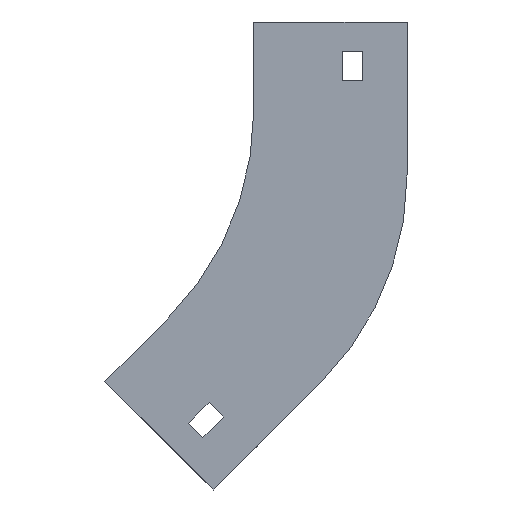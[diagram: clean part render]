
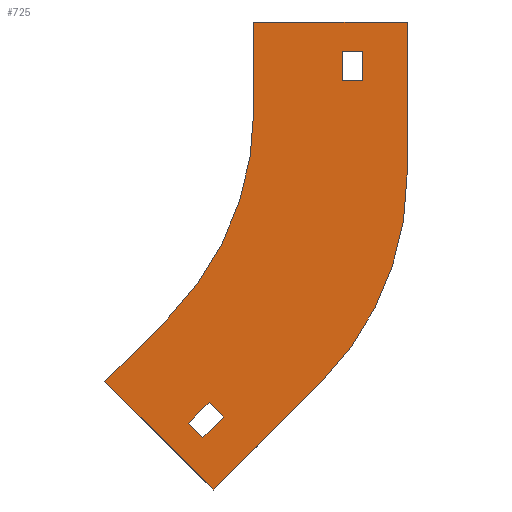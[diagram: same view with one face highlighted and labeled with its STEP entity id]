
A CAD part, left-side view. The second image highlights one B-rep face of the part: STEP entity #725.
In plain terms, the highlighted planar face has unit normal (-1, 0, 0).
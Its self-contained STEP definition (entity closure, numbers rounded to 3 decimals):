
#5 = FACE_BOUND ( 'NONE', #461, .T. ) ;
#8 = VERTEX_POINT ( 'NONE', #197 ) ;
#11 = VERTEX_POINT ( 'NONE', #332 ) ;
#12 = CARTESIAN_POINT ( 'NONE',  ( -302., 100., -30. ) ) ;
#15 = ORIENTED_EDGE ( 'NONE', *, *, #379, .T. ) ;
#26 = DIRECTION ( 'NONE',  ( 0., 0., -1. ) ) ;
#31 = CARTESIAN_POINT ( 'NONE',  ( -302., 50.503, -121.924 ) ) ;
#35 = CARTESIAN_POINT ( 'NONE',  ( -302., 50.503, -121.924 ) ) ;
#47 = ORIENTED_EDGE ( 'NONE', *, *, #1085, .F. ) ;
#66 = CARTESIAN_POINT ( 'NONE',  ( -302., 15.147, -128.995 ) ) ;
#85 = LINE ( 'NONE', #629, #989 ) ;
#96 = VERTEX_POINT ( 'NONE', #1117 ) ;
#100 = DIRECTION ( 'NONE',  ( 0., -0.707, -0.707 ) ) ;
#101 = ORIENTED_EDGE ( 'NONE', *, *, #447, .F. ) ;
#111 = DIRECTION ( 'NONE',  ( 0., -0.707, 0.707 ) ) ;
#118 = FACE_BOUND ( 'NONE', #548, .T. ) ;
#126 = VECTOR ( 'NONE', #1361, 1000. ) ;
#138 = VECTOR ( 'NONE', #526, 1000. ) ;
#158 = VECTOR ( 'NONE', #605, 1000. ) ;
#197 = CARTESIAN_POINT ( 'NONE',  ( -302., -52., 0. ) ) ;
#199 = DIRECTION ( 'NONE',  ( 0., -0.707, 0.707 ) ) ;
#204 = VERTEX_POINT ( 'NONE', #527 ) ;
#212 = CARTESIAN_POINT ( 'NONE',  ( -302., -37., -10. ) ) ;
#218 = CARTESIAN_POINT ( 'NONE',  ( -302., 29.289, -100.711 ) ) ;
#229 = VERTEX_POINT ( 'NONE', #212 ) ;
#266 = DIRECTION ( 'NONE',  ( 0., 0.707, 0.707 ) ) ;
#272 = VECTOR ( 'NONE', #199, 1000. ) ;
#277 = DIRECTION ( 'NONE',  ( 0., -1., 0. ) ) ;
#286 = CARTESIAN_POINT ( 'NONE',  ( -302., -30., -10. ) ) ;
#320 = CARTESIAN_POINT ( 'NONE',  ( -302., -30., -10. ) ) ;
#331 = ORIENTED_EDGE ( 'NONE', *, *, #776, .T. ) ;
#332 = CARTESIAN_POINT ( 'NONE',  ( -302., 0., -30. ) ) ;
#333 = AXIS2_PLACEMENT_3D ( 'NONE', #427, #837, #857 ) ;
#354 = VERTEX_POINT ( 'NONE', #1260 ) ;
#358 = VECTOR ( 'NONE', #1191, 1000. ) ;
#365 = CARTESIAN_POINT ( 'NONE',  ( -302., 17.269, -141.016 ) ) ;
#374 = DIRECTION ( 'NONE',  ( 0., 0., -1. ) ) ;
#379 = EDGE_CURVE ( 'NONE', #1308, #229, #1127, .T. ) ;
#391 = VECTOR ( 'NONE', #374, 1000. ) ;
#403 = AXIS2_PLACEMENT_3D ( 'NONE', #1148, #706, #1349 ) ;
#420 = LINE ( 'NONE', #320, #879 ) ;
#424 = ORIENTED_EDGE ( 'NONE', *, *, #554, .F. ) ;
#427 = CARTESIAN_POINT ( 'NONE',  ( -302., 48., -51.539 ) ) ;
#435 = LINE ( 'NONE', #1176, #1159 ) ;
#441 = CARTESIAN_POINT ( 'NONE',  ( -302., -37., -20. ) ) ;
#443 = PLANE ( 'NONE',  #575 ) ;
#447 = EDGE_CURVE ( 'NONE', #672, #11, #593, .T. ) ;
#461 = EDGE_LOOP ( 'NONE', ( #424, #1284, #890, #1311 ) ) ;
#473 = LINE ( 'NONE', #587, #1036 ) ;
#486 = ORIENTED_EDGE ( 'NONE', *, *, #867, .T. ) ;
#491 = EDGE_CURVE ( 'NONE', #914, #8, #1023, .T. ) ;
#514 = LINE ( 'NONE', #937, #138 ) ;
#524 = VERTEX_POINT ( 'NONE', #539 ) ;
#526 = DIRECTION ( 'NONE',  ( 0., 0.707, -0.707 ) ) ;
#527 = CARTESIAN_POINT ( 'NONE',  ( -302., -30., -20. ) ) ;
#528 = ORIENTED_EDGE ( 'NONE', *, *, #746, .F. ) ;
#531 = CARTESIAN_POINT ( 'NONE',  ( -302., 10.197, -133.945 ) ) ;
#539 = CARTESIAN_POINT ( 'NONE',  ( -302., 22.218, -136.066 ) ) ;
#548 = EDGE_LOOP ( 'NONE', ( #1297, #15, #486, #331 ) ) ;
#554 = EDGE_CURVE ( 'NONE', #524, #732, #85, .T. ) ;
#575 = AXIS2_PLACEMENT_3D ( 'NONE', #12, #1224, #26 ) ;
#581 = EDGE_CURVE ( 'NONE', #628, #1299, #435, .T. ) ;
#585 = CARTESIAN_POINT ( 'NONE',  ( -302., 0., 0. ) ) ;
#587 = CARTESIAN_POINT ( 'NONE',  ( -302., -30., -20. ) ) ;
#593 = CIRCLE ( 'NONE', #403, 100. ) ;
#598 = EDGE_CURVE ( 'NONE', #732, #628, #1387, .T. ) ;
#601 = LINE ( 'NONE', #805, #1035 ) ;
#605 = DIRECTION ( 'NONE',  ( 0., 0., 1. ) ) ;
#626 = EDGE_CURVE ( 'NONE', #204, #1308, #420, .T. ) ;
#628 = VERTEX_POINT ( 'NONE', #531 ) ;
#629 = CARTESIAN_POINT ( 'NONE',  ( -302., 22.218, -136.066 ) ) ;
#643 = EDGE_CURVE ( 'NONE', #354, #96, #702, .T. ) ;
#672 = VERTEX_POINT ( 'NONE', #882 ) ;
#702 = CIRCLE ( 'NONE', #333, 100. ) ;
#706 = DIRECTION ( 'NONE',  ( -1., 0., 0. ) ) ;
#725 = ADVANCED_FACE ( 'NONE', ( #791, #118, #5 ), #443, .F. ) ;
#732 = VERTEX_POINT ( 'NONE', #365 ) ;
#743 = VECTOR ( 'NONE', #111, 1000. ) ;
#746 = EDGE_CURVE ( 'NONE', #780, #1270, #1231, .T. ) ;
#752 = ORIENTED_EDGE ( 'NONE', *, *, #1201, .F. ) ;
#776 = EDGE_CURVE ( 'NONE', #1401, #204, #473, .T. ) ;
#780 = VERTEX_POINT ( 'NONE', #1323 ) ;
#791 = FACE_OUTER_BOUND ( 'NONE', #1220, .T. ) ;
#805 = CARTESIAN_POINT ( 'NONE',  ( -302., 13.733, -158.693 ) ) ;
#810 = ORIENTED_EDGE ( 'NONE', *, *, #1218, .F. ) ;
#818 = CARTESIAN_POINT ( 'NONE',  ( -302., -52., 0. ) ) ;
#822 = DIRECTION ( 'NONE',  ( 0., 0.707, -0.707 ) ) ;
#837 = DIRECTION ( 'NONE',  ( 1., 0., 0. ) ) ;
#850 = DIRECTION ( 'NONE',  ( 0., 0., 1. ) ) ;
#857 = DIRECTION ( 'NONE',  ( 0., 0., 1. ) ) ;
#861 = VECTOR ( 'NONE', #266, 1000. ) ;
#865 = LINE ( 'NONE', #1093, #358 ) ;
#867 = EDGE_CURVE ( 'NONE', #229, #1401, #1005, .T. ) ;
#879 = VECTOR ( 'NONE', #850, 1000. ) ;
#882 = CARTESIAN_POINT ( 'NONE',  ( -302., 29.289, -100.711 ) ) ;
#890 = ORIENTED_EDGE ( 'NONE', *, *, #581, .F. ) ;
#901 = EDGE_CURVE ( 'NONE', #1299, #524, #514, .T. ) ;
#908 = CARTESIAN_POINT ( 'NONE',  ( -302., -37., -10. ) ) ;
#914 = VERTEX_POINT ( 'NONE', #1368 ) ;
#915 = DIRECTION ( 'NONE',  ( 0., 1., 0. ) ) ;
#937 = CARTESIAN_POINT ( 'NONE',  ( -302., 22.218, -136.066 ) ) ;
#950 = DIRECTION ( 'NONE',  ( 0., 0.707, 0.707 ) ) ;
#966 = ORIENTED_EDGE ( 'NONE', *, *, #1357, .F. ) ;
#989 = VECTOR ( 'NONE', #100, 1000. ) ;
#1005 = LINE ( 'NONE', #908, #391 ) ;
#1014 = ORIENTED_EDGE ( 'NONE', *, *, #643, .F. ) ;
#1023 = LINE ( 'NONE', #818, #1189 ) ;
#1035 = VECTOR ( 'NONE', #822, 1000. ) ;
#1036 = VECTOR ( 'NONE', #915, 1000. ) ;
#1083 = ORIENTED_EDGE ( 'NONE', *, *, #491, .F. ) ;
#1085 = EDGE_CURVE ( 'NONE', #1270, #672, #1206, .T. ) ;
#1093 = CARTESIAN_POINT ( 'NONE',  ( -302., -52., -51.539 ) ) ;
#1117 = CARTESIAN_POINT ( 'NONE',  ( -302., -22.711, -122.25 ) ) ;
#1127 = LINE ( 'NONE', #286, #126 ) ;
#1148 = CARTESIAN_POINT ( 'NONE',  ( -302., 100., -30. ) ) ;
#1159 = VECTOR ( 'NONE', #950, 1000. ) ;
#1170 = CARTESIAN_POINT ( 'NONE',  ( -302., 17.269, -141.016 ) ) ;
#1176 = CARTESIAN_POINT ( 'NONE',  ( -302., 15.147, -128.995 ) ) ;
#1189 = VECTOR ( 'NONE', #277, 1000. ) ;
#1191 = DIRECTION ( 'NONE',  ( 0., 0., -1. ) ) ;
#1201 = EDGE_CURVE ( 'NONE', #96, #780, #601, .T. ) ;
#1206 = LINE ( 'NONE', #218, #743 ) ;
#1218 = EDGE_CURVE ( 'NONE', #11, #914, #1233, .T. ) ;
#1220 = EDGE_LOOP ( 'NONE', ( #1083, #810, #101, #47, #528, #752, #1014, #966 ) ) ;
#1224 = DIRECTION ( 'NONE',  ( 1., 0., 0. ) ) ;
#1231 = LINE ( 'NONE', #31, #861 ) ;
#1233 = LINE ( 'NONE', #585, #158 ) ;
#1260 = CARTESIAN_POINT ( 'NONE',  ( -302., -52., -51.539 ) ) ;
#1263 = CARTESIAN_POINT ( 'NONE',  ( -302., -30., -10. ) ) ;
#1270 = VERTEX_POINT ( 'NONE', #35 ) ;
#1284 = ORIENTED_EDGE ( 'NONE', *, *, #901, .F. ) ;
#1297 = ORIENTED_EDGE ( 'NONE', *, *, #626, .T. ) ;
#1299 = VERTEX_POINT ( 'NONE', #66 ) ;
#1308 = VERTEX_POINT ( 'NONE', #1263 ) ;
#1311 = ORIENTED_EDGE ( 'NONE', *, *, #598, .F. ) ;
#1323 = CARTESIAN_POINT ( 'NONE',  ( -302., 13.733, -158.693 ) ) ;
#1349 = DIRECTION ( 'NONE',  ( 0., 0., -1. ) ) ;
#1357 = EDGE_CURVE ( 'NONE', #8, #354, #865, .T. ) ;
#1361 = DIRECTION ( 'NONE',  ( 0., -1., 0. ) ) ;
#1368 = CARTESIAN_POINT ( 'NONE',  ( -302., 0., 0. ) ) ;
#1387 = LINE ( 'NONE', #1170, #272 ) ;
#1401 = VERTEX_POINT ( 'NONE', #441 ) ;
